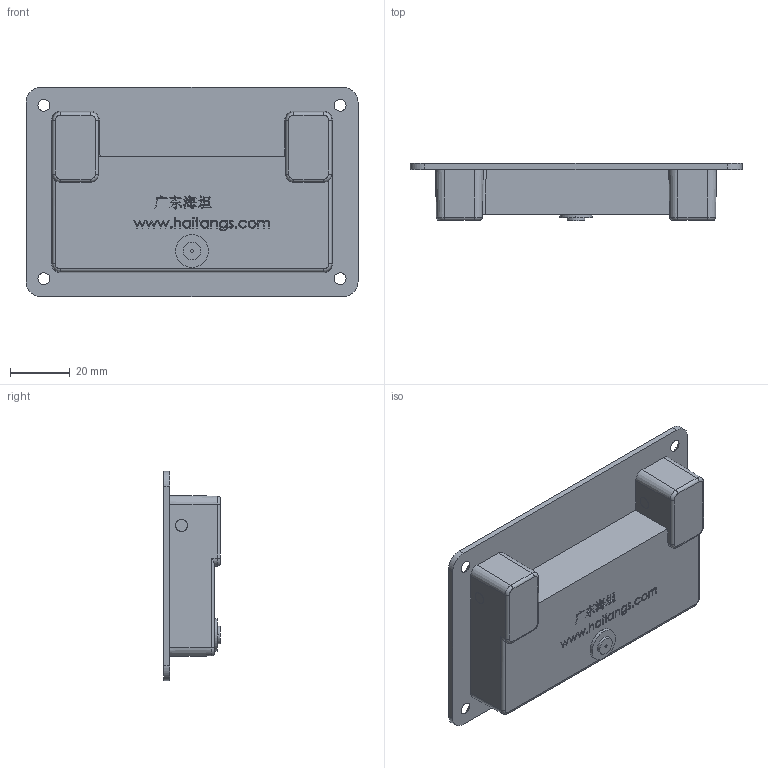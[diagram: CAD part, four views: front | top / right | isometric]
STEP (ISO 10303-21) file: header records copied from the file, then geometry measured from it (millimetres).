
FILE_DESCRIPTION (( 'STEP AP214' ), '1' );
FILE_NAME ('PL002-1.STEP', '2023-07-10T02:57:58', ( '' ), ( '' ), 'SwSTEP 2.0', 'SolidWorks 2019', '' );
FILE_SCHEMA (( 'AUTOMOTIVE_DESIGN' ));
Length unit declared in the file: millimetre
Products named in the file (1): PL002-1
Bounding box: 111 x 19 x 70 mm (x, y, z)
Volume: 39410.8 mm3; surface area: 33456.5 mm2
Topology: 7 solids, 7 shells, 633 faces, 1637 edges, 1062 vertices
Faces by surface type: plane 318, bspline 183, cylinder 76, cone 28, torus 26, sphere 2
Entity records: 30654 total; most frequent: CARTESIAN_POINT 13785, ORIENTED_EDGE 3274, DIRECTION 2316, EDGE_CURVE 1637, VERTEX_POINT 1062, LINE 1026, VECTOR 1026, EDGE_LOOP 701
